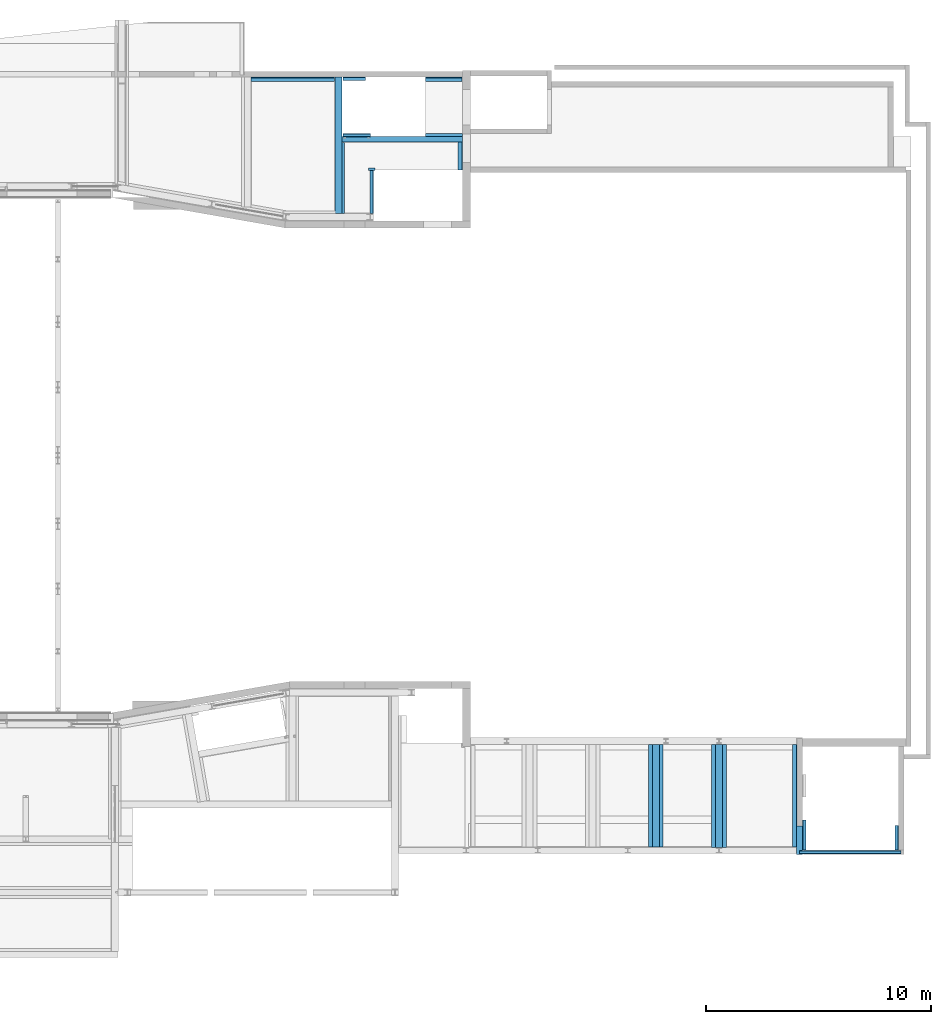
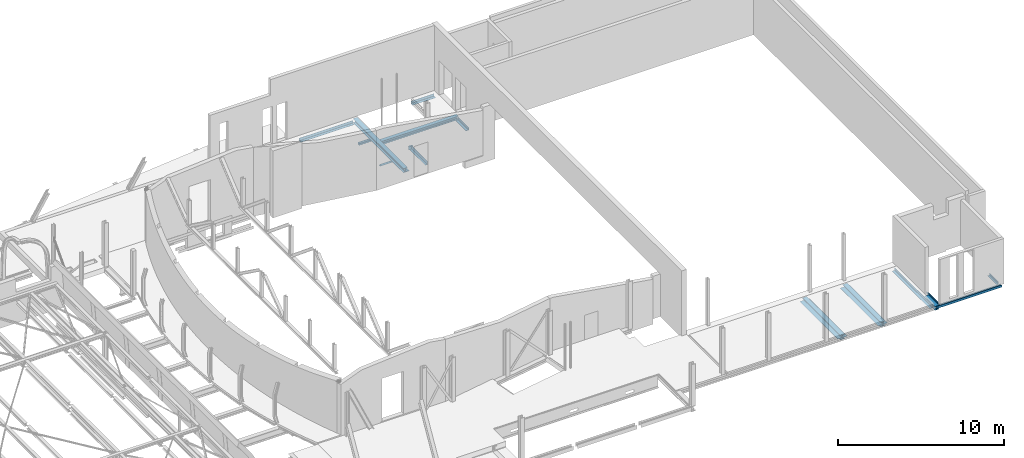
# One storey, part 26 of 38: 15 beams.
"""IFC2X3 building model written with IfcOpenShell, lengths in millimetres."""

from ifc_helpers import new_model, entity, si_unit, converted_unit, derived_unit, direction, frame, frame_2d, origin, origin_2d_with_axis, place, context, subcontext, project, spatial, polyline, circle_curve, parameter, trimmed, segment, composite_curve, rectangle, i_section, outline, extrude, source, transform, mapped, material, material_list, type_object, type_shapes, element, save


model = new_model("IFC2X3")

# Units and contexts
model_context = context("Model", 3, precision=0.01, world=origin(), true_north=direction((6.12303176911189e-17, 1.0)))
body_context = subcontext(model_context, "Body", "Model", "MODEL_VIEW")
ifc_project = project(units=[si_unit("LENGTHUNIT", "METRE", prefix="MILLI"), si_unit("AREAUNIT", "SQUARE_METRE", prefix="MILLI"), si_unit("VOLUMEUNIT", "CUBIC_METRE"), converted_unit("PLANEANGLEUNIT", "DEGREE", entity("IfcRatioMeasure", 0.0174532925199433), si_unit("PLANEANGLEUNIT", "RADIAN"), dimensions=[0, 0, 0, 0, 0, 0, 0]), si_unit("MASSUNIT", "GRAM", prefix="KILO"), derived_unit("MASSDENSITYUNIT", [(si_unit("MASSUNIT", "GRAM", prefix="KILO"), 1), (si_unit("LENGTHUNIT", "METRE"), -3)]), derived_unit("MOMENTOFINERTIAUNIT", [(si_unit("LENGTHUNIT", "METRE"), 4)]), si_unit("TIMEUNIT", "SECOND"), si_unit("FREQUENCYUNIT", "HERTZ"), si_unit("THERMODYNAMICTEMPERATUREUNIT", "DEGREE_CELSIUS"), derived_unit("THERMALTRANSMITTANCEUNIT", [(si_unit("MASSUNIT", "GRAM", prefix="KILO"), 1), (si_unit("THERMODYNAMICTEMPERATUREUNIT", "KELVIN"), -1), (si_unit("TIMEUNIT", "SECOND"), -3)]), derived_unit("VOLUMETRICFLOWRATEUNIT", [(si_unit("LENGTHUNIT", "METRE"), 3), (si_unit("TIMEUNIT", "SECOND"), -1)]), si_unit("ELECTRICCURRENTUNIT", "AMPERE"), si_unit("ELECTRICVOLTAGEUNIT", "VOLT"), si_unit("POWERUNIT", "WATT"), si_unit("FORCEUNIT", "NEWTON", prefix="KILO"), si_unit("ILLUMINANCEUNIT", "LUX"), si_unit("LUMINOUSFLUXUNIT", "LUMEN"), si_unit("LUMINOUSINTENSITYUNIT", "CANDELA"), derived_unit("USERDEFINED", [(si_unit("MASSUNIT", "GRAM", prefix="KILO"), -1), (si_unit("LENGTHUNIT", "METRE"), -2), (si_unit("TIMEUNIT", "SECOND"), 3), (si_unit("LUMINOUSFLUXUNIT", "LUMEN"), 1)]), derived_unit("LINEARVELOCITYUNIT", [(si_unit("LENGTHUNIT", "METRE"), 1), (si_unit("TIMEUNIT", "SECOND"), -1)]), si_unit("PRESSUREUNIT", "PASCAL"), derived_unit("USERDEFINED", [(si_unit("LENGTHUNIT", "METRE"), -2), (si_unit("MASSUNIT", "GRAM", prefix="KILO"), 1), (si_unit("TIMEUNIT", "SECOND"), -2)]), derived_unit("LINEARFORCEUNIT", [(si_unit("MASSUNIT", "GRAM", prefix="KILO"), 1), (si_unit("LENGTHUNIT", "METRE"), 1), (si_unit("TIMEUNIT", "SECOND"), -2), (si_unit("LENGTHUNIT", "METRE"), -1)]), derived_unit("PLANARFORCEUNIT", [(si_unit("MASSUNIT", "GRAM", prefix="KILO"), 1), (si_unit("LENGTHUNIT", "METRE"), 1), (si_unit("TIMEUNIT", "SECOND"), -2), (si_unit("LENGTHUNIT", "METRE"), -2)])], contexts=[model_context])

# Site, building, storey
site_placement = place(None, origin())
site = spatial("IfcSite", under=ifc_project, at=site_placement, Name="Theater aan de Parade", CompositionType="ELEMENT")
building_placement = place(site_placement, origin())
building = spatial("IfcBuilding", under=site, at=building_placement, Name="Theater aan de Parade", CompositionType="ELEMENT")
storey_placement = place(building_placement, frame((0.0, 0.0, 12480.0)))
storey = spatial("IfcBuildingStorey", under=building, at=storey_placement, Name="03 derde verdieping", CompositionType="ELEMENT", Elevation=12480.0)

# Beams
ifc_material_1 = material(Name="00_PBT_MAT_staal_S355")
beam_type_1 = type_object("IfcBeamType", Name="28_PBT_SF_staal_H-profiel (void):S355_HE280B", PredefinedType="NOTDEFINED")
beam_1_placement = place(storey_placement, frame((82360.0084217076, 15925.0, 0.0), z_axis=(0.0, 0.0, 1.0), x_axis=(0.0, -1.0, 0.0)))
element("IfcBeam", 1, at=beam_1_placement, inside=storey, type_object=beam_type_1, material=ifc_material_1, Name="28_PBT_SF_staal_H-profiel (void):S355_HE280B", ObjectType="28_PBT_SF_staal_H-profiel (void):S355_HE280B", context=body_context, shape_type="SweptSolid", body=[
    extrude(outline(composite_curve([segment(polyline([(122.0, -140.0), (140.0, -140.0)]), True, "CONTINUOUS"), segment(polyline([(140.0, -140.0), (140.0, 140.0)]), True, "CONTINUOUS"), segment(polyline([(140.0, 140.0), (122.0, 140.0)]), True, "CONTINUOUS"), segment(polyline([(122.0, 140.0), (122.0, 29.2499999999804)]), True, "CONTINUOUS"), segment(trimmed(circle_curve(frame_2d((98.0, 29.249999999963), x_axis=(1.0, 0.0)), 23.9999999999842), [parameter(269.999999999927)], [parameter(0.0)], True, "PARAMETER"), False, "CONTINUOUS"), segment(polyline([(98.0, 5.24999999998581), (-98.0, 5.24999999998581)]), True, "CONTINUOUS"), segment(trimmed(circle_curve(frame_2d((-98.0, 29.249999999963), x_axis=(0.0, -1.0)), 23.9999999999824), [parameter(269.999999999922)], [parameter(0.0)], True, "PARAMETER"), False, "CONTINUOUS"), segment(polyline([(-122.0, 29.2499999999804), (-122.0, 140.0)]), True, "CONTINUOUS"), segment(polyline([(-122.0, 140.0), (-140.0, 140.0)]), True, "CONTINUOUS"), segment(polyline([(-140.0, 140.0), (-140.0, -140.0)]), True, "CONTINUOUS"), segment(polyline([(-140.0, -140.0), (-122.0, -140.0)]), True, "CONTINUOUS"), segment(polyline([(-122.0, -140.0), (-122.0, -29.250000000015)]), True, "CONTINUOUS"), segment(trimmed(circle_curve(frame_2d((-98.0, -29.2499999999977), x_axis=(-1.0, 0.0)), 23.9999999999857), [parameter(269.999999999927)], [parameter(0.0)], True, "PARAMETER"), False, "CONTINUOUS"), segment(polyline([(-98.0, -5.25000000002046), (98.0, -5.25000000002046)]), True, "CONTINUOUS"), segment(trimmed(circle_curve(frame_2d((98.0, -29.2499999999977), x_axis=(0.0, 1.0)), 23.9999999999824), [parameter(269.999999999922)], [parameter(0.0)], True, "PARAMETER"), False, "CONTINUOUS"), segment(polyline([(122.0, -29.250000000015), (122.0, -140.0)]), True, "CONTINUOUS")], self_intersect=False)), frame((0.0, 0.0, -140.0), z_axis=(1.0, 0.0, 0.0), x_axis=(0.0, 0.0, -1.0)), (0.0, 0.0, 1.0), 1274.99999999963),
])
beam_type_2 = type_object("IfcBeamType", Name="28_PBT_SF_staal_L-profiel:S355_L150x150x15", PredefinedType="NOTDEFINED")
beam_2_placement = place(storey_placement, frame((62023.8822563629, 46634.3631171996, 0.0)))
element("IfcBeam", 2, at=beam_2_placement, inside=storey, type_object=beam_type_2, material=ifc_material_1, Name="28_PBT_SF_staal_L-profiel:S355_L150x150x15", ObjectType="28_PBT_SF_staal_L-profiel:S355_L150x150x15", context=body_context, shape_type="SweptSolid", body=[
    extrude(outline(composite_curve([segment(polyline([(-93.333333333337, -56.6666666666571), (56.6666666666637, -56.6666666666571)]), True, "CONTINUOUS"), segment(polyline([(56.6666666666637, -56.6666666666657), (56.6666666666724, 93.3333333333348)]), True, "CONTINUOUS"), segment(polyline([(56.6666666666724, 93.3333333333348), (49.6666666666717, 93.3333333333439)]), True, "CONTINUOUS"), segment(trimmed(circle_curve(frame_2d((49.6666666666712, 85.3333333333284), x_axis=(0.0, 1.0)), 7.99999999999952), [parameter(0.0)], [parameter(90.0000000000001)], True, "PARAMETER"), True, "CONTINUOUS"), segment(polyline([(41.6666666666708, 85.3333333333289), (41.6666666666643, -25.6666666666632)]), True, "CONTINUOUS"), segment(trimmed(circle_curve(frame_2d((25.666666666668, -25.666666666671), x_axis=(1.0, 0.0)), 15.999999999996), [parameter(269.999999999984)], [parameter(0.0)], True, "PARAMETER"), False, "CONTINUOUS"), segment(polyline([(25.6666666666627, -41.6666666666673), (-85.3333333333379, -41.6666666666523)]), True, "CONTINUOUS"), segment(trimmed(circle_curve(frame_2d((-85.3333333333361, -49.6666666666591), x_axis=(0.0, 1.0)), 7.9999999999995), [parameter(0.0)], [parameter(90.0000000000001)], True, "PARAMETER"), True, "CONTINUOUS"), segment(polyline([(-93.3333333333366, -49.6666666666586), (-93.333333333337, -56.6666666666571)]), True, "CONTINUOUS")], self_intersect=False)), frame((0.0, 14.1666666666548, -1919.33333333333), z_axis=(1.0, 0.0, 0.0), x_axis=(0.0, 0.0, -1.0)), (0.0, 0.0, 1.0), 1239.98964556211),
])
beam_3_placement = place(storey_placement, frame((62023.8822563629, 49219.4979908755, 0.0)))
element("IfcBeam", 3, at=beam_3_placement, inside=storey, type_object=beam_type_2, material=ifc_material_1, Name="28_PBT_SF_staal_L-profiel:S355_L150x150x15", ObjectType="28_PBT_SF_staal_L-profiel:S355_L150x150x15", context=body_context, shape_type="SweptSolid", body=[
    extrude(outline(composite_curve([segment(polyline([(49.6666666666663, -93.3333333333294), (56.666666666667, -93.3333333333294)]), True, "CONTINUOUS"), segment(polyline([(56.666666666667, -93.3333333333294), (56.666666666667, 56.6666666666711)]), True, "CONTINUOUS"), segment(polyline([(56.666666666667, 56.6666666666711), (-93.3333333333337, 56.6666666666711)]), True, "CONTINUOUS"), segment(polyline([(-93.3333333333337, 56.6666666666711), (-93.3333333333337, 49.6666666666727)]), True, "CONTINUOUS"), segment(trimmed(circle_curve(frame_2d((-85.3333333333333, 49.6666666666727), x_axis=(-1.0, 0.0)), 7.9999999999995), [parameter(0.0)], [parameter(90.0000000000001)], True, "PARAMETER"), True, "CONTINUOUS"), segment(polyline([(-85.3333333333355, 41.6666666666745), (25.6666666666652, 41.6666666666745)]), True, "CONTINUOUS"), segment(trimmed(circle_curve(frame_2d((25.6666666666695, 25.6666666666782), x_axis=(0.0, 1.0)), 15.999999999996), [parameter(269.999999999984)], [parameter(0.0)], True, "PARAMETER"), False, "CONTINUOUS"), segment(polyline([(41.6666666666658, 25.6666666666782), (41.6666666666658, -85.3333333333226)]), True, "CONTINUOUS"), segment(trimmed(circle_curve(frame_2d((49.6666666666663, -85.3333333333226), x_axis=(-1.0, 0.0)), 7.99999999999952), [parameter(0.0)], [parameter(90.0000000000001)], True, "PARAMETER"), True, "CONTINUOUS")], self_intersect=False)), frame((0.0, -14.1666666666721, -1919.33333333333), z_axis=(1.0, 0.0, 0.0), x_axis=(0.0, 0.0, -1.0)), (0.0, 0.0, 1.0), 1019.99734582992),
])
beam_4_placement = place(storey_placement, frame((82542.5084217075, 14850.0, 0.0), z_axis=(0.0, 0.0, 1.0), x_axis=(0.0, 1.0, 0.0)))
element("IfcBeam", 4, at=beam_4_placement, inside=storey, type_object=beam_type_2, material=ifc_material_1, Name="28_PBT_SF_staal_L-profiel:S355_L150x150x15", ObjectType="28_PBT_SF_staal_L-profiel:S355_L150x150x15", context=body_context, shape_type="SweptSolid", body=[
    extrude(outline(composite_curve([segment(polyline([(49.6666666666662, -93.3333333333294), (56.6666666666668, -93.3333333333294)]), True, "CONTINUOUS"), segment(polyline([(56.6666666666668, -93.3333333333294), (56.6666666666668, 56.6666666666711)]), True, "CONTINUOUS"), segment(polyline([(56.6666666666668, 56.6666666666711), (-93.3333333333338, 56.6666666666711)]), True, "CONTINUOUS"), segment(polyline([(-93.3333333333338, 56.6666666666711), (-93.3333333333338, 49.6666666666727)]), True, "CONTINUOUS"), segment(trimmed(circle_curve(frame_2d((-85.3333333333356, 49.6666666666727), x_axis=(-1.0, 0.0)), 7.99999999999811), [parameter(0.0)], [parameter(90.0000000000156)], True, "PARAMETER"), True, "CONTINUOUS"), segment(polyline([(-85.3333333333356, 41.6666666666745), (25.6666666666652, 41.6666666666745)]), True, "CONTINUOUS"), segment(trimmed(circle_curve(frame_2d((25.6666666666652, 25.6666666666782), x_axis=(0.0, 1.0)), 15.9999999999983), [parameter(270.0)], [parameter(0.0)], True, "PARAMETER"), False, "CONTINUOUS"), segment(polyline([(41.6666666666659, 25.6666666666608), (41.6666666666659, -85.3333333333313)]), True, "CONTINUOUS"), segment(trimmed(circle_curve(frame_2d((49.666666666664, -85.3333333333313), x_axis=(-1.0, 0.0)), 7.99999999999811), [parameter(0.0)], [parameter(90.0000000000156)], True, "PARAMETER"), True, "CONTINUOUS")], self_intersect=False)), frame((0.0, -14.1666666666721, 6.66666666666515), z_axis=(1.0, 0.0, 0.0), x_axis=(0.0, 0.0, -1.0)), (0.0, 0.0, 1.0), 1330.00004821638),
])
beam_5_placement = place(storey_placement, frame((86723.499999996, 14850.0, 0.0), z_axis=(0.0, 0.0, 1.0), x_axis=(0.0, 1.0, 0.0)))
element("IfcBeam", 5, at=beam_5_placement, inside=storey, type_object=beam_type_2, material=ifc_material_1, Name="28_PBT_SF_staal_L-profiel:S355_L150x150x15", ObjectType="28_PBT_SF_staal_L-profiel:S355_L150x150x15", context=body_context, shape_type="SweptSolid", body=[
    extrude(outline(composite_curve([segment(polyline([(-93.3333333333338, -56.6666666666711), (56.6666666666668, -56.6666666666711)]), True, "CONTINUOUS"), segment(polyline([(56.6666666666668, -56.6666666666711), (56.6666666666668, 93.3333333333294)]), True, "CONTINUOUS"), segment(polyline([(56.6666666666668, 93.3333333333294), (49.6666666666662, 93.3333333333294)]), True, "CONTINUOUS"), segment(trimmed(circle_curve(frame_2d((49.666666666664, 85.3333333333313), x_axis=(0.0, 1.0)), 7.99999999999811), [parameter(0.0)], [parameter(90.0000000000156)], True, "PARAMETER"), True, "CONTINUOUS"), segment(polyline([(41.6666666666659, 85.3333333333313), (41.6666666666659, -25.6666666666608)]), True, "CONTINUOUS"), segment(trimmed(circle_curve(frame_2d((25.6666666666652, -25.6666666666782), x_axis=(1.0, 0.0)), 15.9999999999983), [parameter(270.0)], [parameter(0.0)], True, "PARAMETER"), False, "CONTINUOUS"), segment(polyline([(25.6666666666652, -41.6666666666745), (-85.3333333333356, -41.6666666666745)]), True, "CONTINUOUS"), segment(trimmed(circle_curve(frame_2d((-85.3333333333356, -49.6666666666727), x_axis=(0.0, 1.0)), 7.99999999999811), [parameter(0.0)], [parameter(90.0000000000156)], True, "PARAMETER"), True, "CONTINUOUS"), segment(polyline([(-93.3333333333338, -49.6666666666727), (-93.3333333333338, -56.6666666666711)]), True, "CONTINUOUS")], self_intersect=False)), frame((0.0, 14.1666666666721, 6.66666666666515), z_axis=(1.0, 0.0, 0.0), x_axis=(0.0, 0.0, -1.0)), (0.0, 0.0, 1.0), 1077.70736959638),
])
ifc_material_2 = material(Name="00_PBT_MAT_Lucht")
ifc_material_list_1 = material_list([ifc_material_1, ifc_material_2])
beam_type_3 = type_object("IfcBeamType", Name="28_PBT_SF_staal_H-profiel_met_ondergelaste_strip (void):S355_HE300B + ondergelaste strip d=12", PredefinedType="BEAM", material=ifc_material_list_1)
shared_shape_1 = source(origin(), body_context, "Body", "SweptSolid", [
    extrude(i_section(OverallWidth=300.000000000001, OverallDepth=299.999999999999, WebThickness=10.9999999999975, FlangeThickness=19.0, FilletRadius=27.0000000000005, at=frame_2d((8.65441052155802e-12, -2.17426077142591e-12), x_axis=(1.0, 0.0))), frame((61833.8822563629, 49261.9979908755, 12365.0), z_axis=(0.0, -1.0, 0.0), x_axis=(-1.0, 0.0, 0.0)), (0.0, 0.0, 1.0), 6076.99799087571),
    extrude(rectangle(XDim=12.0000000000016, YDim=420.0, at=frame_2d((-4.33431068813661e-12, -1.0831335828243e-12), x_axis=(0.0, 1.0))), frame((61898.8822563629, 46346.9979908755, 12209.0), z_axis=(0.0, -1.0, 0.0), x_axis=(-1.0, 0.0, 0.0)), (0.0, 0.0, 1.0), 3160.99799087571),
])
type_shapes(beam_type_3, [shared_shape_1])
beam_6_placement = place(storey_placement, frame((0.0, 0.0, -12480.0)))
element("IfcBeam", 6, at=beam_6_placement, inside=storey, type_object=beam_type_3, material=ifc_material_1, Name="28_PBT_SF_staal_H-profiel_met_ondergelaste_strip (void):S355_HE300B + ondergelaste strip d=12", ObjectType="28_PBT_SF_staal_H-profiel_met_ondergelaste_strip (void):S355_HE300B + ondergelaste strip d=12", context=body_context, shape_type="MappedRepresentation", body=[
    mapped(shared_shape_1, transform((0.0, 0.0, 0.0), scale=1.0)),
])
ifc_material_list_2 = material_list([ifc_material_1, ifc_material_2])
beam_type_4 = type_object("IfcBeamType", Name="28_PBT_SF_staal_H-profiel_met_ondergelaste_strip (void):S355_HE260A + ondergelaste strip d=12", PredefinedType="BEAM", material=ifc_material_list_2)
shared_shape_2 = source(origin(), body_context, "Body", "SweptSolid", [
    extrude(outline(composite_curve([segment(polyline([(112.500000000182, -130.0), (125.0, -130.0)]), True, "CONTINUOUS"), segment(polyline([(125.0, -130.0), (125.0, 130.0)]), True, "CONTINUOUS"), segment(polyline([(125.0, 130.0), (112.499999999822, 130.0)]), True, "CONTINUOUS"), segment(polyline([(112.499999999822, 130.0), (112.499999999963, 27.7500000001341)]), True, "CONTINUOUS"), segment(trimmed(circle_curve(frame_2d((88.4999999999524, 27.7500000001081), x_axis=(1.0, 0.0)), 24.0000000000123), [parameter(270.000000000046)], [parameter(0.0)], True, "PARAMETER"), False, "CONTINUOUS"), segment(polyline([(88.4999999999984, 3.75000000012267), (-88.5000000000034, 3.7499999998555)]), True, "CONTINUOUS"), segment(trimmed(circle_curve(frame_2d((-88.5000000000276, 27.7499999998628), x_axis=(0.0, -1.0)), 24.0000000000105), [parameter(270.000000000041)], [parameter(0.0)], True, "PARAMETER"), False, "CONTINUOUS"), segment(polyline([(-112.500000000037, 27.7499999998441), (-112.500000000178, 130.0)]), True, "CONTINUOUS"), segment(polyline([(-112.500000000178, 130.0), (-125.0, 130.0)]), True, "CONTINUOUS"), segment(polyline([(-125.0, 130.0), (-125.0, -130.0)]), True, "CONTINUOUS"), segment(polyline([(-125.0, -130.0), (-112.499999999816, -130.0)]), True, "CONTINUOUS"), segment(polyline([(-112.499999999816, -130.0), (-112.499999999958, -27.7500000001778)]), True, "CONTINUOUS"), segment(trimmed(circle_curve(frame_2d((-88.4999999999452, -27.7500000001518), x_axis=(-1.0, 0.0)), 24.0000000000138), [parameter(270.000000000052)], [parameter(0.0)], True, "PARAMETER"), False, "CONTINUOUS"), segment(polyline([(-88.499999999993, -3.75000000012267), (88.5000000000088, -3.74999999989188)]), True, "CONTINUOUS"), segment(trimmed(circle_curve(frame_2d((88.5000000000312, -27.7499999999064), x_axis=(0.0, 1.0)), 24.0000000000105), [parameter(270.000000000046)], [parameter(0.0)], True, "PARAMETER"), False, "CONTINUOUS"), segment(polyline([(112.50000000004, -27.7499999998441), (112.500000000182, -130.0)]), True, "CONTINUOUS")], self_intersect=False)), frame((61983.8822563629, 46496.8631171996, 12345.0), z_axis=(1.0, 0.0, 0.0), x_axis=(0.0, 0.0, -1.0)), (0.0, 0.0, 1.0), 5372.37384459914),
    extrude(rectangle(XDim=11.9999999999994, YDim=380.0, at=frame_2d((0.0, -8.65441052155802e-12), x_axis=(1.0, 0.0))), frame((65713.8822563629, 46561.8631171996, 12214.0), z_axis=(1.0, 0.0, 0.0), x_axis=(0.0, 0.0, -1.0)), (0.0, 0.0, 1.0), 1641.37384459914),
])
type_shapes(beam_type_4, [shared_shape_2])
beam_7_placement = place(storey_placement, frame((0.0, 0.0, -12480.0)))
element("IfcBeam", 7, at=beam_7_placement, inside=storey, type_object=beam_type_4, material=ifc_material_1, Name="28_PBT_SF_staal_H-profiel_met_ondergelaste_strip (void):S355_HE260A + ondergelaste strip d=12", ObjectType="28_PBT_SF_staal_H-profiel_met_ondergelaste_strip (void):S355_HE260A + ondergelaste strip d=12", context=body_context, shape_type="MappedRepresentation", body=[
    mapped(shared_shape_2, transform((0.0, 0.0, 0.0), scale=1.0)),
])
beam_type_5 = type_object("IfcBeamType", Name="28_PBT_SF_staal_L-profiel:S355_L200x200x20", PredefinedType="NOTDEFINED")
beam_8_placement = place(storey_placement, frame((57937.0315633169, 49205.1979908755, 0.0)))
element("IfcBeam", 8, at=beam_8_placement, inside=storey, type_object=beam_type_5, material=ifc_material_1, Name="28_PBT_SF_staal_L-profiel:S355_L200x200x20", ObjectType="28_PBT_SF_staal_L-profiel:S355_L200x200x20", context=body_context, shape_type="SweptSolid", body=[
    extrude(outline(composite_curve([segment(polyline([(64.5555555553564, -124.44444444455), (75.5555555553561, -124.44444444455)]), True, "CONTINUOUS"), segment(polyline([(75.5555555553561, -124.444444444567), (75.5555555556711, 75.5555555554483)]), True, "CONTINUOUS"), segment(polyline([(75.5555555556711, 75.5555555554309), (-124.444444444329, 75.5555555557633)]), True, "CONTINUOUS"), segment(polyline([(-124.444444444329, 75.5555555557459), (-124.444444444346, 64.5555555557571)]), True, "CONTINUOUS"), segment(trimmed(circle_curve(frame_2d((-115.444444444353, 64.5555555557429), x_axis=(-1.0, 0.0)), 8.99999999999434), [parameter(0.0)], [parameter(90.0000000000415)], True, "PARAMETER"), True, "CONTINUOUS"), segment(polyline([(-115.44444444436, 55.5555555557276), (37.5555555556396, 55.555555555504)]), True, "CONTINUOUS"), segment(trimmed(circle_curve(frame_2d((37.5555555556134, 37.5555555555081), x_axis=(0.0, 1.0)), 17.9999999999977), [parameter(269.999999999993)], [parameter(0.0)], True, "PARAMETER"), False, "CONTINUOUS"), segment(polyline([(55.5555555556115, 37.5555555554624), (55.5555555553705, -115.44444444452)]), True, "CONTINUOUS"), segment(trimmed(circle_curve(frame_2d((64.5555555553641, -115.444444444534), x_axis=(-1.0, 0.0)), 8.99999999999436), [parameter(0.0)], [parameter(90.0000000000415)], True, "PARAMETER"), True, "CONTINUOUS")], self_intersect=False)), frame((0.0, -18.7555555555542, -209.444444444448), z_axis=(1.0, 0.0, 0.0), x_axis=(0.0, 0.0, -1.0)), (0.0, 0.0, 1.0), 3726.8506930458),
])
beam_9_placement = place(storey_placement, frame((65713.8822564, 49205.1979908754, 0.0)))
element("IfcBeam", 9, at=beam_9_placement, inside=storey, type_object=beam_type_5, material=ifc_material_1, Name="28_PBT_SF_staal_L-profiel:S355_L200x200x20", ObjectType="28_PBT_SF_staal_L-profiel:S355_L200x200x20", context=body_context, shape_type="SweptSolid", body=[
    extrude(outline(composite_curve([segment(polyline([(64.5555555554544, -124.44444444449), (75.5555555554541, -124.44444444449)]), True, "CONTINUOUS"), segment(polyline([(75.5555555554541, -124.444444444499), (75.5555555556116, 75.5555555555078)]), True, "CONTINUOUS"), segment(polyline([(75.5555555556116, 75.5555555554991), (-124.444444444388, 75.5555555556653)]), True, "CONTINUOUS"), segment(polyline([(-124.444444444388, 75.5555555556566), (-124.444444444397, 64.5555555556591)]), True, "CONTINUOUS"), segment(trimmed(circle_curve(frame_2d((-115.444444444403, 64.555555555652), x_axis=(-1.0, 0.0)), 8.99999999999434), [parameter(0.0)], [parameter(90.0000000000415)], True, "PARAMETER"), True, "CONTINUOUS"), segment(polyline([(-115.444444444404, 55.5555555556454), (37.5555555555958, 55.5555555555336)]), True, "CONTINUOUS"), segment(trimmed(circle_curve(frame_2d((37.5555555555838, 37.5555555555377), x_axis=(0.0, 1.0)), 17.9999999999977), [parameter(269.999999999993)], [parameter(0.0)], True, "PARAMETER"), False, "CONTINUOUS"), segment(polyline([(55.5555555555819, 37.5555555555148), (55.5555555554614, -115.444444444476)]), True, "CONTINUOUS"), segment(trimmed(circle_curve(frame_2d((64.555555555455, -115.444444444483), x_axis=(-1.0, 0.0)), 8.99999999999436), [parameter(0.0)], [parameter(90.0000000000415)], True, "PARAMETER"), True, "CONTINUOUS")], self_intersect=False)), frame((0.0, -18.7555555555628, -209.444444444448), z_axis=(1.0, 0.0, 0.0), x_axis=(0.0, 0.0, -1.0)), (0.0, 0.0, 1.0), 1609.99999996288),
])
beam_10_placement = place(storey_placement, frame((82193.208421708, 14822.0, 0.0), z_axis=(0.0, 0.0, 1.0), x_axis=(0.0, 1.0, 0.0)))
element("IfcBeam", 10, at=beam_10_placement, inside=storey, type_object=beam_type_5, material=ifc_material_1, Name="28_PBT_SF_staal_L-profiel:S355_L200x200x20", ObjectType="28_PBT_SF_staal_L-profiel:S355_L200x200x20", context=body_context, shape_type="SweptSolid", body=[
    extrude(outline(composite_curve([segment(polyline([(-124.444444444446, -75.5555555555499), (75.5555555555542, -75.5555555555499)]), True, "CONTINUOUS"), segment(polyline([(75.5555555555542, -75.5555555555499), (75.5555555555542, 124.444444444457)]), True, "CONTINUOUS"), segment(polyline([(75.5555555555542, 124.444444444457), (64.5555555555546, 124.444444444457)]), True, "CONTINUOUS"), segment(trimmed(circle_curve(frame_2d((64.5555555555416, 115.444444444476), x_axis=(0.0, 1.0)), 8.99999999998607), [parameter(0.0)], [parameter(90.0000000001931)], True, "PARAMETER"), True, "CONTINUOUS"), segment(polyline([(55.5555555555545, 115.444444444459), (55.5555555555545, -37.5555555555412)]), True, "CONTINUOUS"), segment(trimmed(circle_curve(frame_2d((37.555555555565, -37.5555555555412), x_axis=(1.0, 0.0)), 17.9999999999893), [parameter(269.999999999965)], [parameter(0.0)], True, "PARAMETER"), False, "CONTINUOUS"), segment(polyline([(37.5555555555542, -55.5555555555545), (-115.444444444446, -55.5555555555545)]), True, "CONTINUOUS"), segment(trimmed(circle_curve(frame_2d((-115.444444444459, -64.5555555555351), x_axis=(0.0, 1.0)), 8.99999999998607), [parameter(0.0)], [parameter(90.0000000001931)], True, "PARAMETER"), True, "CONTINUOUS"), segment(polyline([(-124.444444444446, -64.5555555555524), (-124.444444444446, -75.5555555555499)]), True, "CONTINUOUS")], self_intersect=False)), frame((152.699999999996, 18.7555555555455, -229.444444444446), z_axis=(1.0, 0.0, 0.0), x_axis=(0.0, 0.0, -1.0)), (0.0, 0.0, 1.0), 4562.60000000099),
])
beam_11_placement = place(storey_placement, frame((67299.456100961, 45117.5638256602, 0.0), z_axis=(0.0, 0.0, 1.0), x_axis=(0.0, 1.0, 0.0)))
element("IfcBeam", 11, at=beam_11_placement, inside=storey, type_object=beam_type_5, material=ifc_material_1, Name="28_PBT_SF_staal_L-profiel:S355_L200x200x20", ObjectType="28_PBT_SF_staal_L-profiel:S355_L200x200x20", context=body_context, shape_type="SweptSolid", body=[
    extrude(outline(composite_curve([segment(polyline([(-124.444444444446, -75.5555555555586), (75.5555555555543, -75.5555555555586)]), True, "CONTINUOUS"), segment(polyline([(75.5555555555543, -75.5555555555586), (75.5555555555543, 124.444444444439)]), True, "CONTINUOUS"), segment(polyline([(75.5555555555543, 124.444444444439), (64.5555555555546, 124.444444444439)]), True, "CONTINUOUS"), segment(trimmed(circle_curve(frame_2d((64.5555555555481, 115.444444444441), x_axis=(0.0, 1.0)), 8.99999999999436), [parameter(0.0)], [parameter(90.0000000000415)], True, "PARAMETER"), True, "CONTINUOUS"), segment(polyline([(55.5555555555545, 115.444444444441), (55.5555555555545, -37.5555555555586)]), True, "CONTINUOUS"), segment(trimmed(circle_curve(frame_2d((37.5555555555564, -37.5555555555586), x_axis=(1.0, 0.0)), 17.9999999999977), [parameter(269.999999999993)], [parameter(0.0)], True, "PARAMETER"), False, "CONTINUOUS"), segment(polyline([(37.5555555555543, -55.5555555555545), (-115.444444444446, -55.5555555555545)]), True, "CONTINUOUS"), segment(trimmed(circle_curve(frame_2d((-115.444444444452, -64.5555555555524), x_axis=(0.0, 1.0)), 8.99999999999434), [parameter(0.0)], [parameter(90.0000000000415)], True, "PARAMETER"), True, "CONTINUOUS"), segment(polyline([(-124.444444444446, -64.5555555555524), (-124.444444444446, -75.5555555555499)]), True, "CONTINUOUS")], self_intersect=False)), frame((0.0, 18.7555555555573, -209.444444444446), z_axis=(1.0, 0.0, 0.0), x_axis=(0.0, 0.0, -1.0)), (0.0, 0.0, 1.0), 1249.29929153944),
])
ifc_material_list_3 = material_list([ifc_material_2, ifc_material_1])
beam_type_6 = type_object("IfcBeamType", Name="28_PBT_SF_staal_H-profiel_met_oplegstrippen (void):S355_HE300M + oplegstrippen d=12", PredefinedType="BEAM", material=ifc_material_list_3)
shared_shape_3 = source(origin(), body_context, "Body", "SweptSolid", [
    extrude(i_section(OverallWidth=309.999999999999, OverallDepth=340.000000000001, WebThickness=20.9999999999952, FlangeThickness=39.000000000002, FilletRadius=27.0000000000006, at=frame_2d((1.73230318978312e-11, 0.0), x_axis=(1.0, 0.0))), frame((75963.2082522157, 14974.699999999, 12230.0), z_axis=(0.0, 1.0, 0.0), x_axis=(-1.0, 0.0, 0.0)), (0.0, 0.0, 1.0), 4575.30000000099),
    extrude(rectangle(XDim=11.9999999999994, YDim=320.000000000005, at=frame_2d((-4.33431068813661e-12, 0.0), x_axis=(0.0, 1.0))), frame((76133.7082522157, 14974.699999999, 12189.0), z_axis=(0.0, 1.0, 0.0), x_axis=(-1.0, 0.0, 0.0)), (0.0, 0.0, 1.0), 4575.30000000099),
    extrude(rectangle(XDim=11.9999999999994, YDim=320.000000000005, at=frame_2d((4.33431068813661e-12, -1.0831335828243e-12), x_axis=(0.0, 1.0))), frame((75792.7082522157, 14974.699999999, 12189.0), z_axis=(0.0, 1.0, 0.0), x_axis=(-1.0, 0.0, 0.0)), (0.0, 0.0, 1.0), 4575.30000000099),
])
type_shapes(beam_type_6, [shared_shape_3])
beam_12_placement = place(storey_placement, frame((0.0, 0.0, -12480.0)))
element("IfcBeam", 12, at=beam_12_placement, inside=storey, type_object=beam_type_6, material=ifc_material_1, Name="28_PBT_SF_staal_H-profiel_met_oplegstrippen (void):S355_HE300M + oplegstrippen d=12", ObjectType="28_PBT_SF_staal_H-profiel_met_oplegstrippen (void):S355_HE300M + oplegstrippen d=12", context=body_context, shape_type="MappedRepresentation", body=[
    mapped(shared_shape_3, transform((0.0, 0.0, 0.0), scale=1.0)),
])
ifc_material_list_4 = material_list([ifc_material_2, ifc_material_1])
beam_type_7 = type_object("IfcBeamType", Name="28_PBT_SF_staal_H-profiel_met_oplegstrippen (void):S355_HE300M + oplegstrippen d=12", PredefinedType="BEAM", material=ifc_material_list_4)
shared_shape_4 = source(origin(), body_context, "Body", "SweptSolid", [
    extrude(i_section(OverallWidth=309.999999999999, OverallDepth=340.000000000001, WebThickness=21.0000000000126, FlangeThickness=39.000000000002, FilletRadius=26.9999999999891, at=origin_2d_with_axis()), frame((78773.8589693, 14954.699999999, 12230.0), z_axis=(0.0, 1.0, 0.0), x_axis=(-1.0, 0.0, 0.0)), (0.0, 0.0, 1.0), 4595.30000000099),
    extrude(rectangle(XDim=11.9999999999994, YDim=319.999999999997, at=frame_2d((0.0, 0.0), x_axis=(0.0, 1.0))), frame((78944.3589693, 14954.699999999, 12189.0), z_axis=(0.0, 1.0, 0.0), x_axis=(-1.0, 0.0, 0.0)), (0.0, 0.0, 1.0), 4595.30000000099),
    extrude(rectangle(XDim=11.9999999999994, YDim=319.999999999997, at=frame_2d((0.0, -1.0831335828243e-12), x_axis=(0.0, 1.0))), frame((78603.3589693, 14954.699999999, 12189.0), z_axis=(0.0, 1.0, 0.0), x_axis=(-1.0, 0.0, 0.0)), (0.0, 0.0, 1.0), 4595.30000000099),
])
type_shapes(beam_type_7, [shared_shape_4])
beam_13_placement = place(storey_placement, frame((0.0, 0.0, -12480.0)))
element("IfcBeam", 13, at=beam_13_placement, inside=storey, type_object=beam_type_7, material=ifc_material_1, Name="28_PBT_SF_staal_H-profiel_met_oplegstrippen (void):S355_HE300M + oplegstrippen d=12", ObjectType="28_PBT_SF_staal_H-profiel_met_oplegstrippen (void):S355_HE300M + oplegstrippen d=12", context=body_context, shape_type="MappedRepresentation", body=[
    mapped(shared_shape_4, transform((0.0, 0.0, 0.0), scale=1.0)),
])
ifc_material_3 = material(Name="00_PBT_MAT_staal")
ifc_material_list_5 = material_list([ifc_material_3, ifc_material_3])
ifc_material_list_6 = material_list([ifc_material_3, ifc_material_3])
beam_type_8 = type_object("IfcBeamType", Name="28_PBT_SF_raveelijzer:L-staal h=200", PredefinedType="BEAM", material=ifc_material_list_6)
shared_shape_5 = source(origin(), body_context, "Body", "SweptSolid", [
    extrude(outline(polyline([(-102.857142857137, -62.8571428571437), (-102.857142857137, -77.8571428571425), (47.1428571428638, -77.8571428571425), (47.1428571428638, -62.8571428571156), (47.1428571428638, 172.14285714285), (32.1428571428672, 172.14285714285), (32.1428571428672, -62.8571428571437), (-102.857142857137, -62.8571428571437)])), frame((63334.11640285, 43197.5638256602, 12282.8571428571), z_axis=(0.0, -1.0, 0.0), x_axis=(1.0, 0.0, 0.0)), (0.0, 0.0, -1.0), 1909.99999999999),
    extrude(outline(polyline([(-151.071428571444, -21.4285714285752), (-151.071428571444, -31.4285714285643), (56.4285714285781, -31.4285714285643), (66.4285714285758, -31.4285714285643), (66.4285714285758, 68.571428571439), (56.4285714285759, 68.571428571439), (56.4285714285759, -21.4285714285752), (-151.071428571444, -21.4285714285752)])), frame((63166.2591599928, 45138.9923970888, 12363.5714285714), z_axis=(-1.0, 0.0, 0.0), x_axis=(0.0, 0.0, 1.0)), (0.0, 0.0, -1.0), 300.00000000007),
])
type_shapes(beam_type_8, [shared_shape_5])
beam_14_placement = place(storey_placement, frame((0.0, 0.0, -12480.0)))
element("IfcBeam", 14, at=beam_14_placement, inside=storey, type_object=beam_type_8, material=ifc_material_list_5, Name="28_PBT_SF_raveelijzer:L-staal h=200", ObjectType="28_PBT_SF_raveelijzer:L-staal h=200", context=body_context, shape_type="MappedRepresentation", body=[
    mapped(shared_shape_5, transform((0.0, 0.0, 0.0), scale=1.0)),
])
beam_type_9 = type_object("IfcBeamType", Name="28_PBT_SF_staal_H-profiel:S355_HE160A(Z)", PredefinedType="NOTDEFINED")
beam_15_placement = place(storey_placement, frame((86891.0, 14750.0, 0.0), z_axis=(0.0, 0.0, 1.0), x_axis=(-1.0, 0.0, 0.0)))
element("IfcBeam", 15, at=beam_15_placement, inside=storey, type_object=beam_type_9, material=ifc_material_1, Name="28_PBT_SF_staal_H-profiel:S355_HE160A(Z)", ObjectType="28_PBT_SF_staal_H-profiel:S355_HE160A(Z)", context=body_context, shape_type="SweptSolid", body=[
    extrude(i_section(OverallWidth=160.0, OverallDepth=152.0, WebThickness=6.00000000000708, FlangeThickness=9.00000000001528, FilletRadius=15.0000000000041, at=frame_2d((1.08002495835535e-12, 2.16715534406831e-12), x_axis=(1.0, 0.0))), frame((0.0, 0.0, -135.0), z_axis=(1.0, 0.0, 0.0), x_axis=(0.0, 0.0, -1.0)), (0.0, 0.0, 1.0), 4530.99157828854),
])

save(model, "model.ifc")
